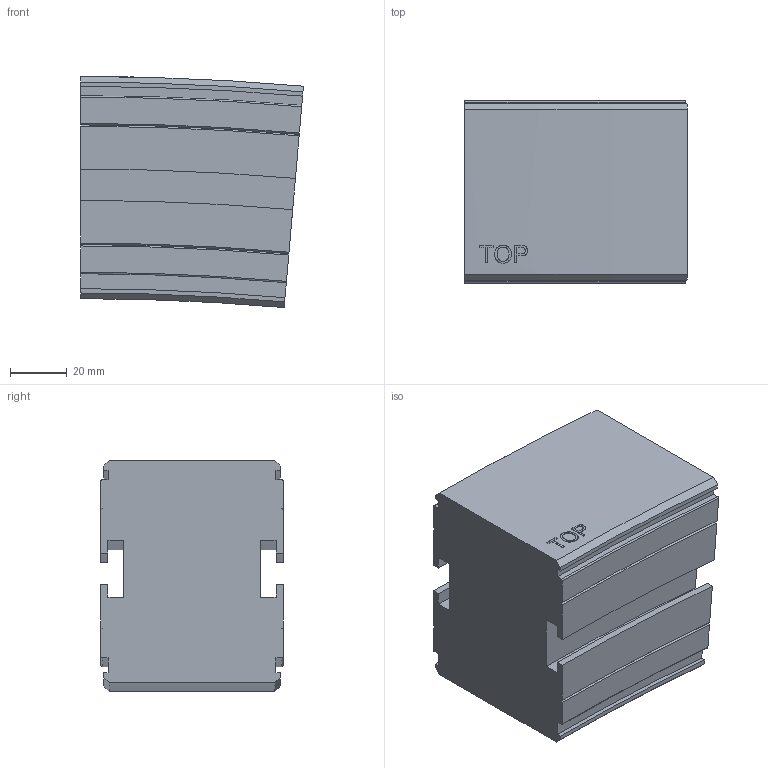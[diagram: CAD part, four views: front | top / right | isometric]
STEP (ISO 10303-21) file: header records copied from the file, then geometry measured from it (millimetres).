
FILE_DESCRIPTION((''),'2;1');
FILE_NAME('C:\Vault Klient\Projekt\Koncept konstruktion\Serie 620 Balk\620-5650_DOWN.stp','2009-11-26T15:52:02',('Mathias'),(''),'Autodesk Inventor 2010','Autodesk Inventor 2010','');
FILE_SCHEMA(('AUTOMOTIVE_DESIGN { 1 0 10303 214 1 1 1 1 }'));
Length unit declared in the file: millimetre
Products named in the file (1): 620-5650_DOWN
Bounding box: 78.27 x 64 x 81.12 mm (x, y, z)
Volume: 348605.9 mm3; surface area: 36341 mm2
Topology: 1 solids, 1 shells, 93 faces, 258 edges, 172 vertices
Faces by surface type: plane 40, cylinder 23, bspline 14, cone 12, torus 4
Entity records: 3454 total; most frequent: CARTESIAN_POINT 1019, ORIENTED_EDGE 516, DIRECTION 472, EDGE_CURVE 258, VERTEX_POINT 172, AXIS2_PLACEMENT_3D 162, VECTOR 148, LINE 148
